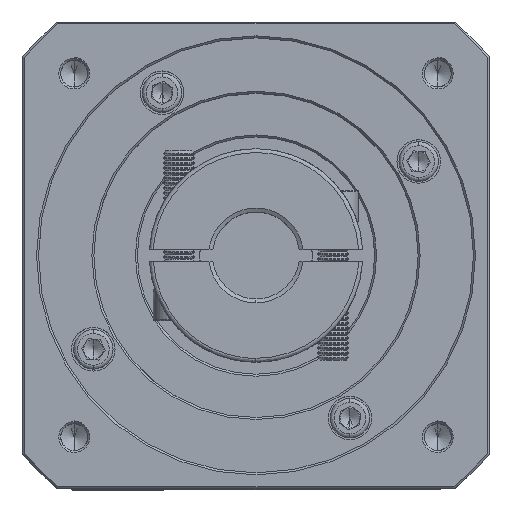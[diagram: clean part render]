
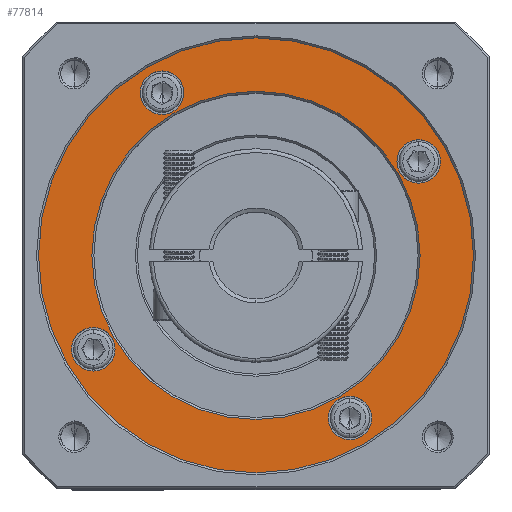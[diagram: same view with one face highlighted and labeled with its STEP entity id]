
A CAD part, top view. The second image highlights one B-rep face of the part: STEP entity #77814.
In plain terms, the highlighted planar face has unit normal (0, 0, 1).
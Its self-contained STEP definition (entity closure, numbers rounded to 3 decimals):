
#317 = DIRECTION ( 'NONE',  ( 0., 0., -1. ) ) ;
#932 = VERTEX_POINT ( 'NONE', #3077 ) ;
#1298 = AXIS2_PLACEMENT_3D ( 'NONE', #52221, #93263, #41907 ) ;
#2250 = AXIS2_PLACEMENT_3D ( 'NONE', #103619, #41921, #84273 ) ;
#3074 = ORIENTED_EDGE ( 'NONE', *, *, #33765, .T. ) ;
#3077 = CARTESIAN_POINT ( 'NONE',  ( 38.48, 92.109, -2.927 ) ) ;
#3285 = ORIENTED_EDGE ( 'NONE', *, *, #109282, .T. ) ;
#4235 = ORIENTED_EDGE ( 'NONE', *, *, #27053, .T. ) ;
#5450 = ORIENTED_EDGE ( 'NONE', *, *, #97143, .T. ) ;
#6061 = CARTESIAN_POINT ( 'NONE',  ( 85.98, 15.337, -2.927 ) ) ;
#7184 = DIRECTION ( 'NONE',  ( 0., -1., 0. ) ) ;
#7888 = CARTESIAN_POINT ( 'NONE',  ( 38.48, 103.109, -2.927 ) ) ;
#9022 = CARTESIAN_POINT ( 'NONE',  ( 21.094, 32.723, -2.927 ) ) ;
#9788 = CARTESIAN_POINT ( 'NONE',  ( 21.094, 27.223, -2.927 ) ) ;
#11092 = FACE_BOUND ( 'NONE', #124644, .T. ) ;
#13586 = CIRCLE ( 'NONE', #68384, 5.5 ) ;
#13812 = CIRCLE ( 'NONE', #122615, 5.5 ) ;
#14941 = VERTEX_POINT ( 'NONE', #62519 ) ;
#17370 = AXIS2_PLACEMENT_3D ( 'NONE', #106612, #96287, #44915 ) ;
#17765 = VERTEX_POINT ( 'NONE', #114264 ) ;
#18131 = DIRECTION ( 'NONE',  ( 0., -1., 0. ) ) ;
#18911 = CARTESIAN_POINT ( 'NONE',  ( 21.094, 38.223, -2.927 ) ) ;
#20010 = ORIENTED_EDGE ( 'NONE', *, *, #99275, .T. ) ;
#21848 = DIRECTION ( 'NONE',  ( 0., 0., -1. ) ) ;
#22050 = DIRECTION ( 'NONE',  ( 0., -1., 0. ) ) ;
#22320 = CIRCLE ( 'NONE', #2250, 5.5 ) ;
#22348 = AXIS2_PLACEMENT_3D ( 'NONE', #117929, #25564, #67166 ) ;
#23907 = VERTEX_POINT ( 'NONE', #39396 ) ;
#24476 = AXIS2_PLACEMENT_3D ( 'NONE', #6061, #108842, #18131 ) ;
#25564 = DIRECTION ( 'NONE',  ( 0., 0., 1. ) ) ;
#26328 = DIRECTION ( 'NONE',  ( 0., -1., 0. ) ) ;
#26346 = CIRCLE ( 'NONE', #131625, 5.5 ) ;
#27053 = EDGE_CURVE ( 'NONE', #44867, #98625, #107158, .T. ) ;
#27699 = EDGE_LOOP ( 'NONE', ( #56198, #20010 ) ) ;
#28576 = CARTESIAN_POINT ( 'NONE',  ( 62.23, 56.473, -2.927 ) ) ;
#29464 = DIRECTION ( 'NONE',  ( 0., -1., 0. ) ) ;
#32989 = VERTEX_POINT ( 'NONE', #18911 ) ;
#33765 = EDGE_CURVE ( 'NONE', #111856, #17765, #97690, .T. ) ;
#34667 = EDGE_LOOP ( 'NONE', ( #3285, #131929 ) ) ;
#36262 = CIRCLE ( 'NONE', #106002, 5.5 ) ;
#37030 = DIRECTION ( 'NONE',  ( 0., 0., -1. ) ) ;
#38208 = AXIS2_PLACEMENT_3D ( 'NONE', #78780, #47607, #26328 ) ;
#39396 = CARTESIAN_POINT ( 'NONE',  ( 85.98, 20.837, -2.927 ) ) ;
#41907 = DIRECTION ( 'NONE',  ( 0., -1., 0. ) ) ;
#41921 = DIRECTION ( 'NONE',  ( 0., 0., -1. ) ) ;
#42783 = CARTESIAN_POINT ( 'NONE',  ( 21.094, 32.723, -2.927 ) ) ;
#44867 = VERTEX_POINT ( 'NONE', #60271 ) ;
#44915 = DIRECTION ( 'NONE',  ( -1., 0., 0. ) ) ;
#47607 = DIRECTION ( 'NONE',  ( 0., 0., -1. ) ) ;
#51335 = DIRECTION ( 'NONE',  ( 0., -1., 0. ) ) ;
#51457 = CARTESIAN_POINT ( 'NONE',  ( 85.98, 15.337, -2.927 ) ) ;
#52221 = CARTESIAN_POINT ( 'NONE',  ( 62.23, 56.473, -2.927 ) ) ;
#54514 = EDGE_CURVE ( 'NONE', #64035, #23907, #90457, .T. ) ;
#55558 = CIRCLE ( 'NONE', #38208, 5.5 ) ;
#56198 = ORIENTED_EDGE ( 'NONE', *, *, #54514, .T. ) ;
#56313 = VERTEX_POINT ( 'NONE', #7888 ) ;
#56688 = ORIENTED_EDGE ( 'NONE', *, *, #90225, .T. ) ;
#60271 = CARTESIAN_POINT ( 'NONE',  ( 103.366, 85.723, -2.927 ) ) ;
#60847 = ORIENTED_EDGE ( 'NONE', *, *, #116373, .T. ) ;
#61513 = AXIS2_PLACEMENT_3D ( 'NONE', #89798, #37030, #7184 ) ;
#61675 = CARTESIAN_POINT ( 'NONE',  ( 62.23, 56.473, -2.927 ) ) ;
#61751 = PLANE ( 'NONE',  #1298 ) ;
#62519 = CARTESIAN_POINT ( 'NONE',  ( 62.23, 111.473, -2.927 ) ) ;
#64035 = VERTEX_POINT ( 'NONE', #117063 ) ;
#66733 = EDGE_LOOP ( 'NONE', ( #88119, #56688 ) ) ;
#67021 = VERTEX_POINT ( 'NONE', #79094 ) ;
#67166 = DIRECTION ( 'NONE',  ( 0., -1., 0. ) ) ;
#68384 = AXIS2_PLACEMENT_3D ( 'NONE', #9022, #80002, #81327 ) ;
#69298 = FACE_BOUND ( 'NONE', #130048, .T. ) ;
#69526 = CIRCLE ( 'NONE', #22348, 55. ) ;
#73050 = EDGE_LOOP ( 'NONE', ( #97896, #4235 ) ) ;
#77814 = ADVANCED_FACE ( 'NONE', ( #103118, #11092, #87018, #93452, #109518, #69298 ), #61751, .T. ) ;
#78167 = ORIENTED_EDGE ( 'NONE', *, *, #123781, .T. ) ;
#78766 = CARTESIAN_POINT ( 'NONE',  ( 103.73, 56.473, -2.927 ) ) ;
#78780 = CARTESIAN_POINT ( 'NONE',  ( 38.48, 97.609, -2.927 ) ) ;
#79094 = CARTESIAN_POINT ( 'NONE',  ( 62.23, 1.473, -2.927 ) ) ;
#80002 = DIRECTION ( 'NONE',  ( 0., 0., -1. ) ) ;
#81327 = DIRECTION ( 'NONE',  ( 0., -1., 0. ) ) ;
#82997 = VERTEX_POINT ( 'NONE', #9788 ) ;
#84273 = DIRECTION ( 'NONE',  ( 0., -1., 0. ) ) ;
#86139 = EDGE_CURVE ( 'NONE', #82997, #32989, #13586, .T. ) ;
#87018 = FACE_BOUND ( 'NONE', #27699, .T. ) ;
#87063 = CARTESIAN_POINT ( 'NONE',  ( 103.366, 80.223, -2.927 ) ) ;
#88119 = ORIENTED_EDGE ( 'NONE', *, *, #86139, .T. ) ;
#89798 = CARTESIAN_POINT ( 'NONE',  ( 103.366, 80.223, -2.927 ) ) ;
#90225 = EDGE_CURVE ( 'NONE', #32989, #82997, #36262, .T. ) ;
#90457 = CIRCLE ( 'NONE', #24476, 5.5 ) ;
#91145 = CIRCLE ( 'NONE', #17370, 41.5 ) ;
#92951 = DIRECTION ( 'NONE',  ( 0., 0., -1. ) ) ;
#93263 = DIRECTION ( 'NONE',  ( 0., 0., 1. ) ) ;
#93452 = FACE_BOUND ( 'NONE', #66733, .T. ) ;
#96287 = DIRECTION ( 'NONE',  ( 0., 0., -1. ) ) ;
#96432 = EDGE_CURVE ( 'NONE', #98625, #44867, #13812, .T. ) ;
#97143 = EDGE_CURVE ( 'NONE', #932, #56313, #55558, .T. ) ;
#97690 = CIRCLE ( 'NONE', #128865, 41.5 ) ;
#97896 = ORIENTED_EDGE ( 'NONE', *, *, #96432, .T. ) ;
#98256 = CARTESIAN_POINT ( 'NONE',  ( 103.366, 74.723, -2.927 ) ) ;
#98625 = VERTEX_POINT ( 'NONE', #98256 ) ;
#99275 = EDGE_CURVE ( 'NONE', #23907, #64035, #26346, .T. ) ;
#100280 = DIRECTION ( 'NONE',  ( 0., 0., 1. ) ) ;
#103118 = FACE_OUTER_BOUND ( 'NONE', #34667, .T. ) ;
#103619 = CARTESIAN_POINT ( 'NONE',  ( 38.48, 97.609, -2.927 ) ) ;
#106002 = AXIS2_PLACEMENT_3D ( 'NONE', #42783, #317, #51335 ) ;
#106612 = CARTESIAN_POINT ( 'NONE',  ( 62.23, 56.473, -2.927 ) ) ;
#107158 = CIRCLE ( 'NONE', #61513, 5.5 ) ;
#108842 = DIRECTION ( 'NONE',  ( 0., 0., -1. ) ) ;
#109282 = EDGE_CURVE ( 'NONE', #67021, #14941, #69526, .T. ) ;
#109518 = FACE_BOUND ( 'NONE', #73050, .T. ) ;
#111856 = VERTEX_POINT ( 'NONE', #78766 ) ;
#114264 = CARTESIAN_POINT ( 'NONE',  ( 20.73, 56.473, -2.927 ) ) ;
#116373 = EDGE_CURVE ( 'NONE', #17765, #111856, #91145, .T. ) ;
#117063 = CARTESIAN_POINT ( 'NONE',  ( 85.98, 9.837, -2.927 ) ) ;
#117929 = CARTESIAN_POINT ( 'NONE',  ( 62.23, 56.473, -2.927 ) ) ;
#118912 = DIRECTION ( 'NONE',  ( 0., 0., -1. ) ) ;
#122615 = AXIS2_PLACEMENT_3D ( 'NONE', #87063, #118912, #129645 ) ;
#123781 = EDGE_CURVE ( 'NONE', #56313, #932, #22320, .T. ) ;
#124644 = EDGE_LOOP ( 'NONE', ( #60847, #3074 ) ) ;
#125060 = DIRECTION ( 'NONE',  ( -1., 0., 0. ) ) ;
#127626 = EDGE_CURVE ( 'NONE', #14941, #67021, #131640, .T. ) ;
#128092 = AXIS2_PLACEMENT_3D ( 'NONE', #28576, #100280, #29464 ) ;
#128865 = AXIS2_PLACEMENT_3D ( 'NONE', #61675, #21848, #125060 ) ;
#129645 = DIRECTION ( 'NONE',  ( 0., -1., 0. ) ) ;
#130048 = EDGE_LOOP ( 'NONE', ( #5450, #78167 ) ) ;
#131625 = AXIS2_PLACEMENT_3D ( 'NONE', #51457, #92951, #22050 ) ;
#131640 = CIRCLE ( 'NONE', #128092, 55. ) ;
#131929 = ORIENTED_EDGE ( 'NONE', *, *, #127626, .T. ) ;
